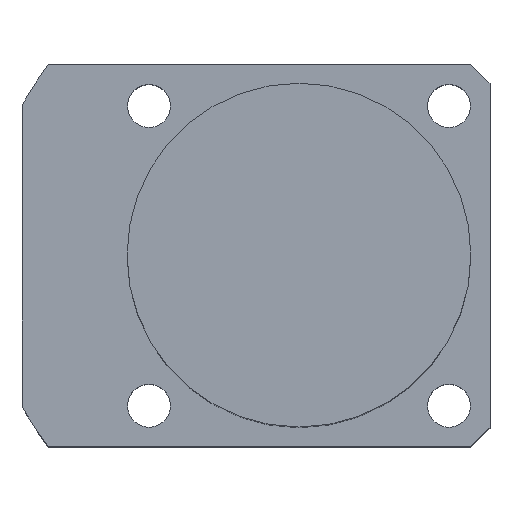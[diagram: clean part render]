
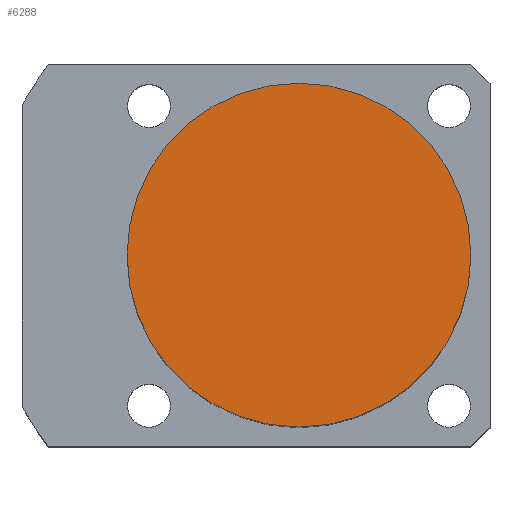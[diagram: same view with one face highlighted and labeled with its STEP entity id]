
A CAD part, top view. The second image highlights one B-rep face of the part: STEP entity #6288.
In plain terms, the highlighted planar face has unit normal (0, 0, 1).
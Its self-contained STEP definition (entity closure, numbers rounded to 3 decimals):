
#6230=CARTESIAN_POINT('',(-0.0,18.0,53.5));
#6231=VERTEX_POINT('',#6230);
#6238=CARTESIAN_POINT('',(18.0,0.0,53.5));
#6239=VERTEX_POINT('',#6238);
#6240=CARTESIAN_POINT('',(0.0,0.0,53.5));
#6241=DIRECTION('',(0.0,0.0,1.0));
#6242=DIRECTION('',(1.0,0.0,0.0));
#6243=AXIS2_PLACEMENT_3D('',#6240,#6241,#6242);
#6244=CIRCLE('',#6243,18.0);
#6245=EDGE_CURVE('no 3775',#6239,#6231,#6244,.T.);
#6247=CARTESIAN_POINT('',(-0.0,-18.0,53.5));
#6248=VERTEX_POINT('',#6247);
#6249=CARTESIAN_POINT('',(0.0,0.0,53.5));
#6250=DIRECTION('',(0.0,0.0,1.0));
#6251=DIRECTION('',(1.0,0.0,0.0));
#6252=AXIS2_PLACEMENT_3D('',#6249,#6250,#6251);
#6253=CIRCLE('',#6252,18.0);
#6254=EDGE_CURVE('no 3781',#6248,#6239,#6253,.T.);
#6272=ORIENTED_EDGE('',*,*,#6245,.T.);
#6273=CARTESIAN_POINT('',(0.0,0.0,53.5));
#6274=DIRECTION('',(0.0,0.0,1.0));
#6275=DIRECTION('',(1.0,0.0,0.0));
#6276=AXIS2_PLACEMENT_3D('',#6273,#6274,#6275);
#6277=CIRCLE('',#6276,18.0);
#6278=EDGE_CURVE('no 3798',#6231,#6248,#6277,.T.);
#6279=ORIENTED_EDGE('',*,*,#6278,.T.);
#6280=ORIENTED_EDGE('',*,*,#6254,.T.);
#6281=EDGE_LOOP('',(#6272,#6279,#6280));
#6282=FACE_OUTER_BOUND('',#6281,.T.);
#6283=CARTESIAN_POINT('',(0.0,0.0,53.5));
#6284=DIRECTION('',(0.0,0.0,1.0));
#6285=DIRECTION('',(1.0,0.0,0.0));
#6286=AXIS2_PLACEMENT_3D('',#6283,#6284,#6285);
#6287=PLANE('',#6286);
#6288=ADVANCED_FACE('no 3791',(#6282),#6287,.T.);
